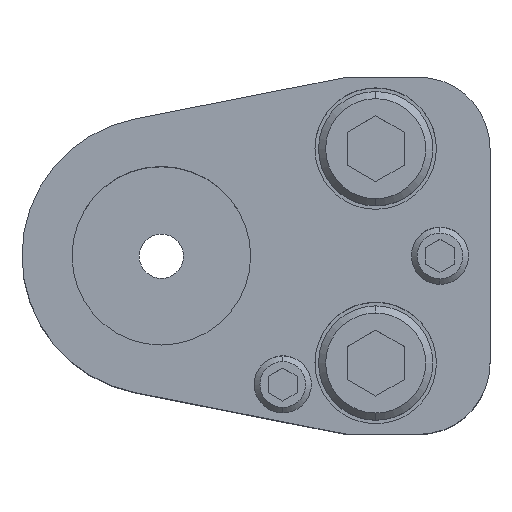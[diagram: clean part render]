
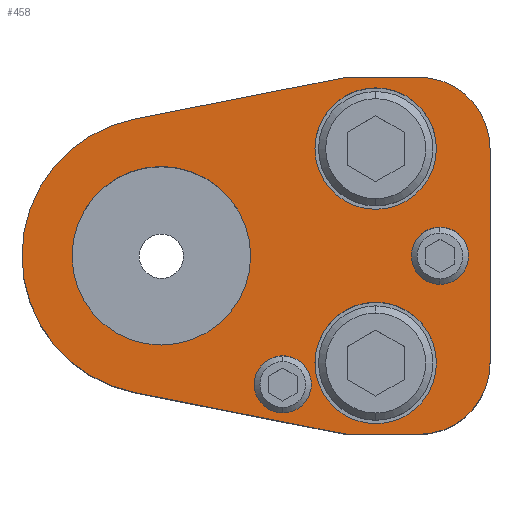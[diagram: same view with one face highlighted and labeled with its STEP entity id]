
A CAD part, top view. The second image highlights one B-rep face of the part: STEP entity #458.
In plain terms, the highlighted planar face has unit normal (0, 0, 1).
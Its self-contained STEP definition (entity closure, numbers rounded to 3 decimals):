
#217=FACE_BOUND('',#825,.T.);
#218=FACE_BOUND('',#826,.T.);
#219=FACE_BOUND('',#827,.T.);
#220=FACE_BOUND('',#828,.T.);
#221=FACE_BOUND('',#829,.T.);
#222=FACE_BOUND('',#830,.T.);
#273=CIRCLE('',#2646,19.5);
#275=CIRCLE('',#2651,10.);
#277=CIRCLE('',#2655,10.);
#295=CIRCLE('',#2683,8.5);
#297=CIRCLE('',#2686,8.5);
#299=CIRCLE('',#2690,8.5);
#301=CIRCLE('',#2693,8.5);
#303=CIRCLE('',#2697,4.);
#304=CIRCLE('',#2698,4.);
#305=CIRCLE('',#2699,4.);
#306=CIRCLE('',#2700,4.);
#307=CIRCLE('',#2701,12.5);
#308=CIRCLE('',#2702,12.5);
#458=ADVANCED_FACE('',(#217,#218,#219,#220,#221,#222),#588,.T.);
#588=PLANE('',#2703);
#825=EDGE_LOOP('',(#1181,#1182,#1183,#1184,#1185,#1186,#1187,#1188));
#826=EDGE_LOOP('',(#1189,#1190));
#827=EDGE_LOOP('',(#1191,#1192));
#828=EDGE_LOOP('',(#1193,#1194));
#829=EDGE_LOOP('',(#1195,#1196));
#830=EDGE_LOOP('',(#1197,#1198));
#1181=ORIENTED_EDGE('',*,*,#1934,.T.);
#1182=ORIENTED_EDGE('',*,*,#1938,.T.);
#1183=ORIENTED_EDGE('',*,*,#1941,.T.);
#1184=ORIENTED_EDGE('',*,*,#1944,.T.);
#1185=ORIENTED_EDGE('',*,*,#1947,.T.);
#1186=ORIENTED_EDGE('',*,*,#1950,.T.);
#1187=ORIENTED_EDGE('',*,*,#1953,.T.);
#1188=ORIENTED_EDGE('',*,*,#1956,.T.);
#1189=ORIENTED_EDGE('',*,*,#1991,.F.);
#1190=ORIENTED_EDGE('',*,*,#1992,.F.);
#1191=ORIENTED_EDGE('',*,*,#1993,.F.);
#1192=ORIENTED_EDGE('',*,*,#1994,.F.);
#1193=ORIENTED_EDGE('',*,*,#1989,.F.);
#1194=ORIENTED_EDGE('',*,*,#1985,.F.);
#1195=ORIENTED_EDGE('',*,*,#1983,.F.);
#1196=ORIENTED_EDGE('',*,*,#1979,.F.);
#1197=ORIENTED_EDGE('',*,*,#1995,.T.);
#1198=ORIENTED_EDGE('',*,*,#1996,.T.);
#1688=VERTEX_POINT('',#3846);
#1689=VERTEX_POINT('',#3848);
#1692=VERTEX_POINT('',#3855);
#1694=VERTEX_POINT('',#3861);
#1696=VERTEX_POINT('',#3867);
#1698=VERTEX_POINT('',#3873);
#1700=VERTEX_POINT('',#3879);
#1702=VERTEX_POINT('',#3885);
#1719=VERTEX_POINT('',#3938);
#1720=VERTEX_POINT('',#3939);
#1723=VERTEX_POINT('',#3951);
#1724=VERTEX_POINT('',#3952);
#1727=VERTEX_POINT('',#3964);
#1728=VERTEX_POINT('',#3965);
#1729=VERTEX_POINT('',#3968);
#1730=VERTEX_POINT('',#3969);
#1731=VERTEX_POINT('',#3972);
#1732=VERTEX_POINT('',#3973);
#1934=EDGE_CURVE('',#1689,#1688,#273,.T.);
#1938=EDGE_CURVE('',#1688,#1692,#2266,.T.);
#1941=EDGE_CURVE('',#1692,#1694,#2269,.T.);
#1944=EDGE_CURVE('',#1694,#1696,#275,.T.);
#1947=EDGE_CURVE('',#1696,#1698,#2273,.T.);
#1950=EDGE_CURVE('',#1698,#1700,#277,.T.);
#1953=EDGE_CURVE('',#1700,#1702,#2277,.T.);
#1956=EDGE_CURVE('',#1702,#1689,#2280,.T.);
#1979=EDGE_CURVE('',#1719,#1720,#295,.T.);
#1983=EDGE_CURVE('',#1720,#1719,#297,.T.);
#1985=EDGE_CURVE('',#1723,#1724,#299,.T.);
#1989=EDGE_CURVE('',#1724,#1723,#301,.T.);
#1991=EDGE_CURVE('',#1727,#1728,#303,.T.);
#1992=EDGE_CURVE('',#1728,#1727,#304,.T.);
#1993=EDGE_CURVE('',#1729,#1730,#305,.T.);
#1994=EDGE_CURVE('',#1730,#1729,#306,.T.);
#1995=EDGE_CURVE('',#1731,#1732,#307,.T.);
#1996=EDGE_CURVE('',#1732,#1731,#308,.T.);
#2266=LINE('',#3856,#2458);
#2269=LINE('',#3862,#2461);
#2273=LINE('',#3874,#2465);
#2277=LINE('',#3886,#2469);
#2280=LINE('',#3890,#2472);
#2458=VECTOR('',#3056,1.);
#2461=VECTOR('',#3061,1.);
#2465=VECTOR('',#3073,1.);
#2469=VECTOR('',#3085,1.);
#2472=VECTOR('',#3090,1.);
#2646=AXIS2_PLACEMENT_3D('',#3847,#3048,#3049);
#2651=AXIS2_PLACEMENT_3D('',#3868,#3066,#3067);
#2655=AXIS2_PLACEMENT_3D('',#3880,#3078,#3079);
#2683=AXIS2_PLACEMENT_3D('',#3937,#3145,#3146);
#2686=AXIS2_PLACEMENT_3D('',#3946,#3153,#3154);
#2690=AXIS2_PLACEMENT_3D('',#3950,#3161,#3162);
#2693=AXIS2_PLACEMENT_3D('',#3959,#3169,#3170);
#2697=AXIS2_PLACEMENT_3D('',#3963,#3177,#3178);
#2698=AXIS2_PLACEMENT_3D('',#3966,#3179,#3180);
#2699=AXIS2_PLACEMENT_3D('',#3967,#3181,#3182);
#2700=AXIS2_PLACEMENT_3D('',#3970,#3183,#3184);
#2701=AXIS2_PLACEMENT_3D('',#3971,#3185,#3186);
#2702=AXIS2_PLACEMENT_3D('',#3974,#3187,#3188);
#2703=AXIS2_PLACEMENT_3D('',#3975,#3189,#3190);
#3048=DIRECTION('',(0.,0.,1.));
#3049=DIRECTION('',(0.,1.,0.));
#3056=DIRECTION('',(0.981,-0.193,0.));
#3061=DIRECTION('',(1.,0.,0.));
#3066=DIRECTION('',(0.,0.,1.));
#3067=DIRECTION('',(-0.707,0.707,0.));
#3073=DIRECTION('',(0.,1.,0.));
#3078=DIRECTION('',(0.,0.,1.));
#3079=DIRECTION('',(-0.707,-0.707,0.));
#3085=DIRECTION('',(-1.,0.,0.));
#3090=DIRECTION('',(-0.981,-0.193,0.));
#3145=DIRECTION('',(0.,0.,1.));
#3146=DIRECTION('',(-1.,0.,0.));
#3153=DIRECTION('',(0.,0.,1.));
#3154=DIRECTION('',(1.,0.,0.));
#3161=DIRECTION('',(0.,0.,1.));
#3162=DIRECTION('',(-1.,0.,0.));
#3169=DIRECTION('',(0.,0.,1.));
#3170=DIRECTION('',(1.,0.,0.));
#3177=DIRECTION('',(0.,0.,1.));
#3178=DIRECTION('',(1.,0.,0.));
#3179=DIRECTION('',(0.,0.,1.));
#3180=DIRECTION('',(-1.,0.,0.));
#3181=DIRECTION('',(0.,0.,1.));
#3182=DIRECTION('',(1.,0.,0.));
#3183=DIRECTION('',(0.,0.,1.));
#3184=DIRECTION('',(-1.,0.,0.));
#3185=DIRECTION('',(0.,0.,-1.));
#3186=DIRECTION('',(-1.,0.,0.));
#3187=DIRECTION('',(0.,0.,-1.));
#3188=DIRECTION('',(1.,0.,0.));
#3189=DIRECTION('',(0.,0.,1.));
#3190=DIRECTION('',(0.981,0.193,0.));
#3846=CARTESIAN_POINT('',(-3.771,-19.132,40.));
#3847=CARTESIAN_POINT('',(0.,0.,40.));
#3848=CARTESIAN_POINT('',(-3.771,19.132,40.));
#3855=CARTESIAN_POINT('',(26.,-25.,40.));
#3856=CARTESIAN_POINT('',(26.,-25.,40.));
#3861=CARTESIAN_POINT('',(36.,-25.,40.));
#3862=CARTESIAN_POINT('',(26.,-25.,40.));
#3867=CARTESIAN_POINT('',(46.,-15.,40.));
#3868=CARTESIAN_POINT('',(36.,-15.,40.));
#3873=CARTESIAN_POINT('',(46.,15.,40.));
#3874=CARTESIAN_POINT('',(46.,-15.,40.));
#3879=CARTESIAN_POINT('',(36.,25.,40.));
#3880=CARTESIAN_POINT('',(36.,15.,40.));
#3885=CARTESIAN_POINT('',(26.,25.,40.));
#3886=CARTESIAN_POINT('',(26.,25.,40.));
#3890=CARTESIAN_POINT('',(26.,25.,40.));
#3937=CARTESIAN_POINT('',(30.,15.,40.));
#3938=CARTESIAN_POINT('',(30.,6.5,40.));
#3939=CARTESIAN_POINT('',(30.,23.5,40.));
#3946=CARTESIAN_POINT('',(30.,15.,40.));
#3950=CARTESIAN_POINT('',(30.,-15.,40.));
#3951=CARTESIAN_POINT('',(30.,-23.5,40.));
#3952=CARTESIAN_POINT('',(30.,-6.5,40.));
#3959=CARTESIAN_POINT('',(30.,-15.,40.));
#3963=CARTESIAN_POINT('',(17.,-18.,40.));
#3964=CARTESIAN_POINT('',(17.,-14.,40.));
#3965=CARTESIAN_POINT('',(17.,-22.,40.));
#3966=CARTESIAN_POINT('',(17.,-18.,40.));
#3967=CARTESIAN_POINT('',(39.,0.,40.));
#3968=CARTESIAN_POINT('',(39.,4.,40.));
#3969=CARTESIAN_POINT('',(39.,-4.,40.));
#3970=CARTESIAN_POINT('',(39.,0.,40.));
#3971=CARTESIAN_POINT('',(0.,0.,40.));
#3972=CARTESIAN_POINT('',(0.,12.5,40.));
#3973=CARTESIAN_POINT('',(0.,-12.5,40.));
#3974=CARTESIAN_POINT('',(0.,0.,40.));
#3975=CARTESIAN_POINT('',(-3.771,19.132,40.));
